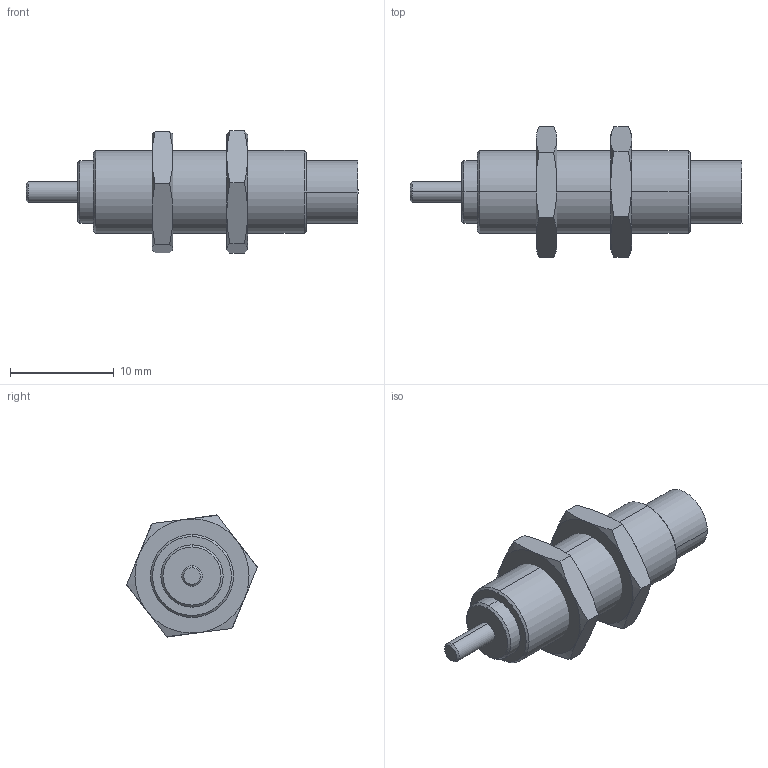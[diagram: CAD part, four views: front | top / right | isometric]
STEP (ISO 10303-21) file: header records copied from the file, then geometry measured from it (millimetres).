
FILE_DESCRIPTION (( 'STEP AP203' ), '1' );
FILE_NAME ('FSA-0805AA.STEP', '2016-03-17T07:42:10', ( 'Sam Lin' ), ( '' ), 'SwSTEP 2.0', 'SolidWorks 2013', '' );
FILE_SCHEMA (( 'CONFIG_CONTROL_DESIGN' ));
Length unit declared in the file: metre
Products named in the file (3): FSA-0805AA_1; M8x0.75-2mm_1; FSA-0805AA
Assembly tree (3 placements, depth 2):
  FSA-0805AA
    FSA-0805AA_1
    M8x0.75-2mm_1  x2
Bounding box: 32 x 12.6 x 11.79 mm (x, y, z)
Volume: 1490.7 mm3; surface area: 1254.2 mm2
Topology: 3 solids, 3 shells, 65 faces, 138 edges, 82 vertices
Faces by surface type: bspline 24, plane 21, cylinder 12, cone 8
Entity records: 1825 total; most frequent: CARTESIAN_POINT 679, ORIENTED_EDGE 180, DIRECTION 158, EDGE_CURVE 90, AXIS2_PLACEMENT_3D 67, VERTEX_POINT 54, EDGE_LOOP 48, FACE_OUTER_BOUND 43
